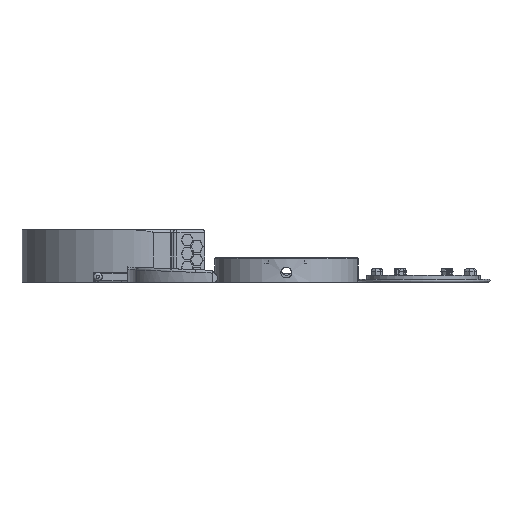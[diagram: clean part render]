
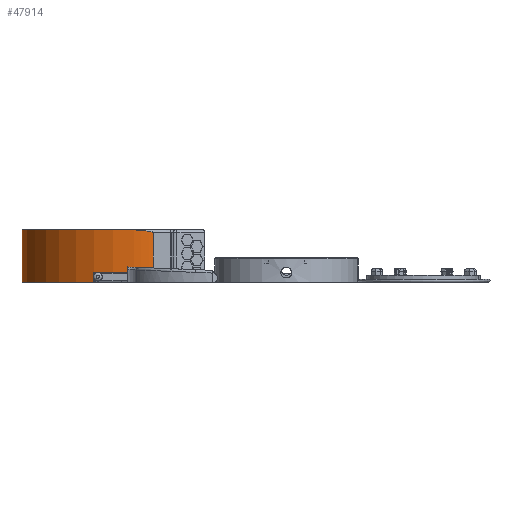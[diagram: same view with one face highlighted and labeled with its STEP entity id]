
A CAD part, left-side view. The second image highlights one B-rep face of the part: STEP entity #47914.
In plain terms, the highlighted cylindrical face has radius 90 mm (diameter 180 mm), a partial arc.
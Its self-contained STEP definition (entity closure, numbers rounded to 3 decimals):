
#2693=B_SPLINE_CURVE_WITH_KNOTS('',3,(#79987,#79988,#79989,#79990,#79991,
#79992,#79993,#79994,#79995,#79996,#79997,#79998,#79999,#80000,#80001,#80002),
 .UNSPECIFIED.,.F.,.F.,(4,2,2,2,2,2,2,4),(0.791,1.32,
1.849,1.978,2.107,2.141,2.147,
2.153),.UNSPECIFIED.);
#2694=B_SPLINE_CURVE_WITH_KNOTS('',3,(#80006,#80007,#80008,#80009,#80010,
#80011,#80012,#80013,#80014,#80015,#80016,#80017,#80018,#80019,#80020,#80021),
 .UNSPECIFIED.,.F.,.F.,(4,2,2,2,2,2,2,4),(2.945,3.474,
4.002,4.131,4.26,4.294,4.3,
4.307),.UNSPECIFIED.);
#2695=B_SPLINE_CURVE_WITH_KNOTS('',3,(#80025,#80026,#80027,#80028,#80029,
#80030,#80031,#80032,#80033,#80034,#80035,#80036,#80037,#80038,#80039,#80040),
 .UNSPECIFIED.,.F.,.F.,(4,2,2,2,2,2,2,4),(0.791,1.32,
1.849,1.978,2.107,2.141,2.147,
2.153),.UNSPECIFIED.);
#2696=B_SPLINE_CURVE_WITH_KNOTS('',3,(#80044,#80045,#80046,#80047,#80048,
#80049,#80050,#80051,#80052,#80053,#80054,#80055,#80056,#80057,#80058,#80059),
 .UNSPECIFIED.,.F.,.F.,(4,2,2,2,2,2,2,4),(4.307,4.313,
4.32,4.354,4.483,4.611,5.14,
5.669),.UNSPECIFIED.);
#4884=FACE_OUTER_BOUND('',#7643,.T.);
#7643=EDGE_LOOP('',(#44175,#44176,#44177,#44178,#44179,#44180,#44181,#44182));
#13080=LINE('',#80023,#18666);
#13081=LINE('',#80060,#18667);
#18666=VECTOR('',#62620,10.);
#18667=VECTOR('',#62623,10.);
#19923=CIRCLE('',#51142,90.);
#19924=CIRCLE('',#51143,90.);
#24179=VERTEX_POINT('',#79985);
#24180=VERTEX_POINT('',#79986);
#24181=VERTEX_POINT('',#80003);
#24182=VERTEX_POINT('',#80005);
#24183=VERTEX_POINT('',#80022);
#24184=VERTEX_POINT('',#80024);
#24185=VERTEX_POINT('',#80041);
#24186=VERTEX_POINT('',#80043);
#30907=EDGE_CURVE('',#24179,#24180,#2693,.T.);
#30908=EDGE_CURVE('',#24181,#24179,#19923,.T.);
#30909=EDGE_CURVE('',#24182,#24181,#2694,.F.);
#30910=EDGE_CURVE('',#24182,#24183,#13080,.T.);
#30911=EDGE_CURVE('',#24184,#24183,#2695,.T.);
#30912=EDGE_CURVE('',#24184,#24185,#19924,.F.);
#30913=EDGE_CURVE('',#24186,#24185,#2696,.T.);
#30914=EDGE_CURVE('',#24180,#24186,#13081,.T.);
#44175=ORIENTED_EDGE('',*,*,#30907,.F.);
#44176=ORIENTED_EDGE('',*,*,#30908,.F.);
#44177=ORIENTED_EDGE('',*,*,#30909,.F.);
#44178=ORIENTED_EDGE('',*,*,#30910,.T.);
#44179=ORIENTED_EDGE('',*,*,#30911,.F.);
#44180=ORIENTED_EDGE('',*,*,#30912,.T.);
#44181=ORIENTED_EDGE('',*,*,#30913,.F.);
#44182=ORIENTED_EDGE('',*,*,#30914,.F.);
#45773=CYLINDRICAL_SURFACE('',#51141,90.);
#47914=ADVANCED_FACE('',(#4884),#45773,.T.);
#51141=AXIS2_PLACEMENT_3D('',#79984,#62616,#62617);
#51142=AXIS2_PLACEMENT_3D('',#80004,#62618,#62619);
#51143=AXIS2_PLACEMENT_3D('',#80042,#62621,#62622);
#62616=DIRECTION('center_axis',(0.,0.,
-1.));
#62617=DIRECTION('ref_axis',(-0.035,0.999,0.));
#62618=DIRECTION('center_axis',(0.,0.,-1.));
#62619=DIRECTION('ref_axis',(-0.999,-0.035,0.));
#62620=DIRECTION('',(0.,0.,1.));
#62621=DIRECTION('center_axis',(0.,0.,1.));
#62622=DIRECTION('ref_axis',(-0.999,-0.035,0.));
#62623=DIRECTION('',(0.,0.,1.));
#79984=CARTESIAN_POINT('Origin',(0.162,106.408,-8.823));
#79985=CARTESIAN_POINT('',(89.087,120.279,-18.));
#79986=CARTESIAN_POINT('',(90.162,106.123,-16.));
#79987=CARTESIAN_POINT('Ctrl Pts',(89.087,120.279,-18.));
#79988=CARTESIAN_POINT('Ctrl Pts',(89.358,118.537,-18.));
#79989=CARTESIAN_POINT('Ctrl Pts',(89.601,116.62,-17.887));
#79990=CARTESIAN_POINT('Ctrl Pts',(89.956,112.788,-17.51));
#79991=CARTESIAN_POINT('Ctrl Pts',(90.068,110.871,-17.256));
#79992=CARTESIAN_POINT('Ctrl Pts',(90.133,108.714,-16.871));
#79993=CARTESIAN_POINT('Ctrl Pts',(90.144,108.25,-16.783));
#79994=CARTESIAN_POINT('Ctrl Pts',(90.158,107.333,-16.579));
#79995=CARTESIAN_POINT('Ctrl Pts',(90.162,106.877,-16.474));
#79996=CARTESIAN_POINT('Ctrl Pts',(90.162,106.379,-16.259));
#79997=CARTESIAN_POINT('Ctrl Pts',(90.162,106.256,-16.201));
#79998=CARTESIAN_POINT('Ctrl Pts',(90.162,106.164,-16.102));
#79999=CARTESIAN_POINT('Ctrl Pts',(90.162,106.149,-16.084));
#80000=CARTESIAN_POINT('Ctrl Pts',(90.162,106.129,-16.043));
#80001=CARTESIAN_POINT('Ctrl Pts',(90.162,106.123,-16.021));
#80002=CARTESIAN_POINT('Ctrl Pts',(90.162,106.123,-16.));
#80003=CARTESIAN_POINT('',(-89.518,113.992,-18.));
#80004=CARTESIAN_POINT('Origin',(0.162,106.408,-18.));
#80005=CARTESIAN_POINT('',(-89.595,99.795,-16.));
#80006=CARTESIAN_POINT('Ctrl Pts',(-89.518,113.992,-18.));
#80007=CARTESIAN_POINT('Ctrl Pts',(-89.666,112.235,-18.));
#80008=CARTESIAN_POINT('Ctrl Pts',(-89.774,110.306,-17.887));
#80009=CARTESIAN_POINT('Ctrl Pts',(-89.859,106.458,-17.51));
#80010=CARTESIAN_POINT('Ctrl Pts',(-89.835,104.538,-17.256));
#80011=CARTESIAN_POINT('Ctrl Pts',(-89.749,102.382,-16.871));
#80012=CARTESIAN_POINT('Ctrl Pts',(-89.727,101.919,-16.783));
#80013=CARTESIAN_POINT('Ctrl Pts',(-89.677,101.003,-16.579));
#80014=CARTESIAN_POINT('Ctrl Pts',(-89.648,100.548,-16.474));
#80015=CARTESIAN_POINT('Ctrl Pts',(-89.613,100.051,-16.259));
#80016=CARTESIAN_POINT('Ctrl Pts',(-89.604,99.928,-16.201));
#80017=CARTESIAN_POINT('Ctrl Pts',(-89.598,99.836,-16.102));
#80018=CARTESIAN_POINT('Ctrl Pts',(-89.597,99.821,-16.084));
#80019=CARTESIAN_POINT('Ctrl Pts',(-89.595,99.801,-16.043));
#80020=CARTESIAN_POINT('Ctrl Pts',(-89.595,99.795,-16.021));
#80021=CARTESIAN_POINT('Ctrl Pts',(-89.595,99.795,-16.));
#80022=CARTESIAN_POINT('',(-89.595,99.795,18.355));
#80023=CARTESIAN_POINT('',(-89.595,99.795,-8.823));
#80024=CARTESIAN_POINT('',(-89.518,113.992,20.355));
#80025=CARTESIAN_POINT('Ctrl Pts',(-89.518,113.992,20.355));
#80026=CARTESIAN_POINT('Ctrl Pts',(-89.666,112.235,20.355));
#80027=CARTESIAN_POINT('Ctrl Pts',(-89.774,110.306,20.242));
#80028=CARTESIAN_POINT('Ctrl Pts',(-89.859,106.458,19.865));
#80029=CARTESIAN_POINT('Ctrl Pts',(-89.835,104.538,19.611));
#80030=CARTESIAN_POINT('Ctrl Pts',(-89.749,102.382,19.226));
#80031=CARTESIAN_POINT('Ctrl Pts',(-89.727,101.919,19.138));
#80032=CARTESIAN_POINT('Ctrl Pts',(-89.677,101.003,18.934));
#80033=CARTESIAN_POINT('Ctrl Pts',(-89.648,100.548,18.829));
#80034=CARTESIAN_POINT('Ctrl Pts',(-89.613,100.051,18.614));
#80035=CARTESIAN_POINT('Ctrl Pts',(-89.604,99.928,18.556));
#80036=CARTESIAN_POINT('Ctrl Pts',(-89.598,99.836,18.457));
#80037=CARTESIAN_POINT('Ctrl Pts',(-89.597,99.821,18.439));
#80038=CARTESIAN_POINT('Ctrl Pts',(-89.595,99.801,18.398));
#80039=CARTESIAN_POINT('Ctrl Pts',(-89.595,99.795,18.376));
#80040=CARTESIAN_POINT('Ctrl Pts',(-89.595,99.795,18.355));
#80041=CARTESIAN_POINT('',(89.087,120.279,20.355));
#80042=CARTESIAN_POINT('Origin',(0.162,106.408,20.355));
#80043=CARTESIAN_POINT('',(90.162,106.123,18.355));
#80044=CARTESIAN_POINT('Ctrl Pts',(90.162,106.123,18.355));
#80045=CARTESIAN_POINT('Ctrl Pts',(90.162,106.123,18.376));
#80046=CARTESIAN_POINT('Ctrl Pts',(90.162,106.129,18.398));
#80047=CARTESIAN_POINT('Ctrl Pts',(90.162,106.149,18.439));
#80048=CARTESIAN_POINT('Ctrl Pts',(90.162,106.164,18.457));
#80049=CARTESIAN_POINT('Ctrl Pts',(90.162,106.256,18.556));
#80050=CARTESIAN_POINT('Ctrl Pts',(90.162,106.379,18.614));
#80051=CARTESIAN_POINT('Ctrl Pts',(90.162,106.877,18.829));
#80052=CARTESIAN_POINT('Ctrl Pts',(90.158,107.333,18.934));
#80053=CARTESIAN_POINT('Ctrl Pts',(90.144,108.25,19.138));
#80054=CARTESIAN_POINT('Ctrl Pts',(90.133,108.714,19.226));
#80055=CARTESIAN_POINT('Ctrl Pts',(90.068,110.871,19.611));
#80056=CARTESIAN_POINT('Ctrl Pts',(89.956,112.788,19.865));
#80057=CARTESIAN_POINT('Ctrl Pts',(89.601,116.62,20.242));
#80058=CARTESIAN_POINT('Ctrl Pts',(89.358,118.537,20.355));
#80059=CARTESIAN_POINT('Ctrl Pts',(89.087,120.279,20.355));
#80060=CARTESIAN_POINT('',(90.162,106.123,-8.823));
